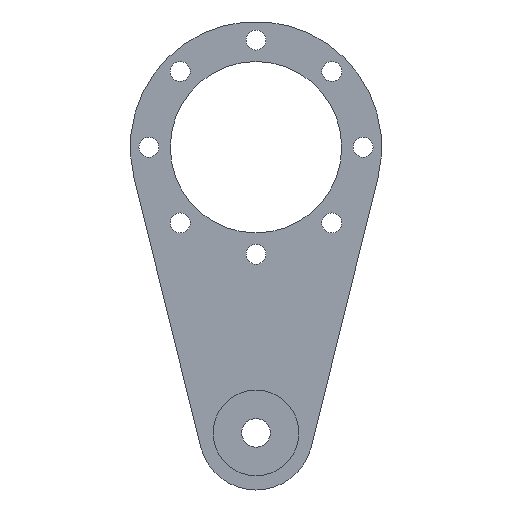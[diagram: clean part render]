
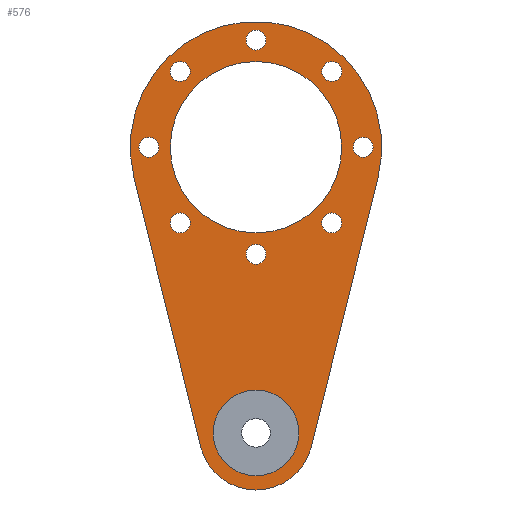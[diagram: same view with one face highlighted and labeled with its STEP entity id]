
A CAD part, left-side view. The second image highlights one B-rep face of the part: STEP entity #576.
In plain terms, the highlighted planar face has unit normal (-1, 0, 0).
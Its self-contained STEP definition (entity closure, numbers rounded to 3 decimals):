
#1=CARTESIAN_POINT('',(-2.,0.,0.));
#2=DIRECTION('',(-1.,0.,0.));
#3=DIRECTION('',(0.,0.,-1.));
#4=AXIS2_PLACEMENT_3D('',#1,#2,#3);
#6=CARTESIAN_POINT('',(-2.,0.,0.));
#7=DIRECTION('',(-1.,0.,0.));
#8=DIRECTION('',(0.,0.,1.));
#9=AXIS2_PLACEMENT_3D('',#6,#7,#8);
#11=CARTESIAN_POINT('',(-2.,37.5,0.));
#12=DIRECTION('',(-1.,0.,0.));
#13=DIRECTION('',(0.,0.,-1.));
#14=AXIS2_PLACEMENT_3D('',#11,#12,#13);
#16=CARTESIAN_POINT('',(-2.,37.5,0.));
#17=DIRECTION('',(-1.,0.,0.));
#18=DIRECTION('',(0.,0.,1.));
#19=AXIS2_PLACEMENT_3D('',#16,#17,#18);
#21=CARTESIAN_POINT('',(-2.,26.517,-26.517));
#22=DIRECTION('',(-1.,0.,0.));
#23=DIRECTION('',(0.,0.,-1.));
#24=AXIS2_PLACEMENT_3D('',#21,#22,#23);
#26=CARTESIAN_POINT('',(-2.,26.517,-26.517));
#27=DIRECTION('',(-1.,0.,0.));
#28=DIRECTION('',(0.,0.,1.));
#29=AXIS2_PLACEMENT_3D('',#26,#27,#28);
#31=CARTESIAN_POINT('',(-2.,0.,-37.5));
#32=DIRECTION('',(-1.,0.,0.));
#33=DIRECTION('',(0.,0.,-1.));
#34=AXIS2_PLACEMENT_3D('',#31,#32,#33);
#36=CARTESIAN_POINT('',(-2.,0.,-37.5));
#37=DIRECTION('',(-1.,0.,0.));
#38=DIRECTION('',(0.,0.,1.));
#39=AXIS2_PLACEMENT_3D('',#36,#37,#38);
#41=CARTESIAN_POINT('',(-2.,-37.5,0.));
#42=DIRECTION('',(-1.,0.,0.));
#43=DIRECTION('',(0.,0.,-1.));
#44=AXIS2_PLACEMENT_3D('',#41,#42,#43);
#46=CARTESIAN_POINT('',(-2.,-37.5,0.));
#47=DIRECTION('',(-1.,0.,0.));
#48=DIRECTION('',(0.,0.,1.));
#49=AXIS2_PLACEMENT_3D('',#46,#47,#48);
#51=CARTESIAN_POINT('',(-2.,0.,37.5));
#52=DIRECTION('',(-1.,0.,0.));
#53=DIRECTION('',(0.,0.,-1.));
#54=AXIS2_PLACEMENT_3D('',#51,#52,#53);
#56=CARTESIAN_POINT('',(-2.,0.,37.5));
#57=DIRECTION('',(-1.,0.,0.));
#58=DIRECTION('',(0.,0.,1.));
#59=AXIS2_PLACEMENT_3D('',#56,#57,#58);
#61=CARTESIAN_POINT('',(-2.,26.517,26.517));
#62=DIRECTION('',(-1.,0.,0.));
#63=DIRECTION('',(0.,0.,-1.));
#64=AXIS2_PLACEMENT_3D('',#61,#62,#63);
#66=CARTESIAN_POINT('',(-2.,26.517,26.517));
#67=DIRECTION('',(-1.,0.,0.));
#68=DIRECTION('',(0.,0.,1.));
#69=AXIS2_PLACEMENT_3D('',#66,#67,#68);
#71=CARTESIAN_POINT('',(-2.,-26.517,26.517));
#72=DIRECTION('',(-1.,0.,0.));
#73=DIRECTION('',(0.,0.,-1.));
#74=AXIS2_PLACEMENT_3D('',#71,#72,#73);
#76=CARTESIAN_POINT('',(-2.,-26.517,26.517));
#77=DIRECTION('',(-1.,0.,0.));
#78=DIRECTION('',(0.,0.,1.));
#79=AXIS2_PLACEMENT_3D('',#76,#77,#78);
#81=CARTESIAN_POINT('',(-2.,-26.517,-26.517));
#82=DIRECTION('',(-1.,0.,0.));
#83=DIRECTION('',(0.,0.,-1.));
#84=AXIS2_PLACEMENT_3D('',#81,#82,#83);
#86=CARTESIAN_POINT('',(-2.,-26.517,-26.517));
#87=DIRECTION('',(-1.,0.,0.));
#88=DIRECTION('',(0.,0.,1.));
#89=AXIS2_PLACEMENT_3D('',#86,#87,#88);
#91=DIRECTION('',(0.,0.24,0.971));
#92=VECTOR('',#91,97.077);
#93=CARTESIAN_POINT('',(-2.,19.415,-104.8));
#94=LINE('',#93,#92);
#95=CARTESIAN_POINT('',(-2.,0.,0.));
#96=DIRECTION('',(1.,0.,0.));
#97=DIRECTION('',(0.,0.971,-0.24));
#98=AXIS2_PLACEMENT_3D('',#95,#96,#97);
#100=DIRECTION('',(0.,0.24,-0.971));
#101=VECTOR('',#100,97.077);
#102=CARTESIAN_POINT('',(-2.,-42.714,-10.56));
#103=LINE('',#102,#101);
#104=CARTESIAN_POINT('',(-2.,0.,-100.));
#105=DIRECTION('',(1.,0.,0.));
#106=DIRECTION('',(0.,-0.971,-0.24));
#107=AXIS2_PLACEMENT_3D('',#104,#105,#106);
#109=CARTESIAN_POINT('',(-2.,0.,-100.));
#110=DIRECTION('',(-1.,0.,0.));
#111=DIRECTION('',(0.,0.,1.));
#112=AXIS2_PLACEMENT_3D('',#109,#110,#111);
#114=CARTESIAN_POINT('',(-2.,0.,-100.));
#115=DIRECTION('',(-1.,0.,0.));
#116=DIRECTION('',(0.,0.,-1.));
#117=AXIS2_PLACEMENT_3D('',#114,#115,#116);
#389=CARTESIAN_POINT('',(-2.,0.,-30.));
#390=CARTESIAN_POINT('',(-2.,0.,30.));
#391=VERTEX_POINT('',#389);
#392=VERTEX_POINT('',#390);
#393=CARTESIAN_POINT('',(-2.,37.5,-3.5));
#394=CARTESIAN_POINT('',(-2.,37.5,3.5));
#395=VERTEX_POINT('',#393);
#396=VERTEX_POINT('',#394);
#397=CARTESIAN_POINT('',(-2.,26.517,-30.017));
#398=CARTESIAN_POINT('',(-2.,26.517,-23.017));
#399=VERTEX_POINT('',#397);
#400=VERTEX_POINT('',#398);
#401=CARTESIAN_POINT('',(-2.,0.,-41.));
#402=CARTESIAN_POINT('',(-2.,0.,-34.));
#403=VERTEX_POINT('',#401);
#404=VERTEX_POINT('',#402);
#405=CARTESIAN_POINT('',(-2.,-37.5,-3.5));
#406=CARTESIAN_POINT('',(-2.,-37.5,3.5));
#407=VERTEX_POINT('',#405);
#408=VERTEX_POINT('',#406);
#409=CARTESIAN_POINT('',(-2.,0.,34.));
#410=CARTESIAN_POINT('',(-2.,0.,41.));
#411=VERTEX_POINT('',#409);
#412=VERTEX_POINT('',#410);
#413=CARTESIAN_POINT('',(-2.,26.517,23.017));
#414=CARTESIAN_POINT('',(-2.,26.517,30.017));
#415=VERTEX_POINT('',#413);
#416=VERTEX_POINT('',#414);
#417=CARTESIAN_POINT('',(-2.,-26.517,23.017));
#418=CARTESIAN_POINT('',(-2.,-26.517,30.017));
#419=VERTEX_POINT('',#417);
#420=VERTEX_POINT('',#418);
#421=CARTESIAN_POINT('',(-2.,-26.517,-30.017));
#422=CARTESIAN_POINT('',(-2.,-26.517,-23.017));
#423=VERTEX_POINT('',#421);
#424=VERTEX_POINT('',#422);
#425=CARTESIAN_POINT('',(-2.,19.415,-104.8));
#426=CARTESIAN_POINT('',(-2.,42.714,-10.56));
#427=VERTEX_POINT('',#425);
#428=VERTEX_POINT('',#426);
#429=CARTESIAN_POINT('',(-2.,-42.714,-10.56));
#430=VERTEX_POINT('',#429);
#431=CARTESIAN_POINT('',(-2.,-19.415,-104.8));
#432=VERTEX_POINT('',#431);
#497=CARTESIAN_POINT('',(-2.,0.,-85.));
#498=CARTESIAN_POINT('',(-2.,0.,-115.));
#499=VERTEX_POINT('',#497);
#500=VERTEX_POINT('',#498);
#501=CARTESIAN_POINT('',(-2.,0.,0.));
#502=DIRECTION('',(1.,0.,0.));
#503=DIRECTION('',(0.,0.,-1.));
#504=AXIS2_PLACEMENT_3D('',#501,#502,#503);
#505=PLANE('',#504);
#507=ORIENTED_EDGE('',*,*,#506,.T.);
#509=ORIENTED_EDGE('',*,*,#508,.T.);
#511=ORIENTED_EDGE('',*,*,#510,.T.);
#513=ORIENTED_EDGE('',*,*,#512,.T.);
#514=EDGE_LOOP('',(#507,#509,#511,#513));
#515=FACE_OUTER_BOUND('',#514,.F.);
#517=ORIENTED_EDGE('',*,*,#516,.T.);
#519=ORIENTED_EDGE('',*,*,#518,.T.);
#520=EDGE_LOOP('',(#517,#519));
#521=FACE_BOUND('',#520,.F.);
#523=ORIENTED_EDGE('',*,*,#522,.T.);
#525=ORIENTED_EDGE('',*,*,#524,.T.);
#526=EDGE_LOOP('',(#523,#525));
#527=FACE_BOUND('',#526,.F.);
#529=ORIENTED_EDGE('',*,*,#528,.T.);
#531=ORIENTED_EDGE('',*,*,#530,.T.);
#532=EDGE_LOOP('',(#529,#531));
#533=FACE_BOUND('',#532,.F.);
#535=ORIENTED_EDGE('',*,*,#534,.T.);
#537=ORIENTED_EDGE('',*,*,#536,.T.);
#538=EDGE_LOOP('',(#535,#537));
#539=FACE_BOUND('',#538,.F.);
#541=ORIENTED_EDGE('',*,*,#540,.T.);
#543=ORIENTED_EDGE('',*,*,#542,.T.);
#544=EDGE_LOOP('',(#541,#543));
#545=FACE_BOUND('',#544,.F.);
#547=ORIENTED_EDGE('',*,*,#546,.T.);
#549=ORIENTED_EDGE('',*,*,#548,.T.);
#550=EDGE_LOOP('',(#547,#549));
#551=FACE_BOUND('',#550,.F.);
#553=ORIENTED_EDGE('',*,*,#552,.T.);
#555=ORIENTED_EDGE('',*,*,#554,.T.);
#556=EDGE_LOOP('',(#553,#555));
#557=FACE_BOUND('',#556,.F.);
#559=ORIENTED_EDGE('',*,*,#558,.T.);
#561=ORIENTED_EDGE('',*,*,#560,.T.);
#562=EDGE_LOOP('',(#559,#561));
#563=FACE_BOUND('',#562,.F.);
#565=ORIENTED_EDGE('',*,*,#564,.T.);
#567=ORIENTED_EDGE('',*,*,#566,.T.);
#568=EDGE_LOOP('',(#565,#567));
#569=FACE_BOUND('',#568,.F.);
#571=ORIENTED_EDGE('',*,*,#570,.T.);
#573=ORIENTED_EDGE('',*,*,#572,.T.);
#574=EDGE_LOOP('',(#571,#573));
#575=FACE_BOUND('',#574,.F.);
#576=ADVANCED_FACE('',(#515,#521,#527,#533,#539,#545,#551,#557,#563,#569,#575),
#505,.F.);
#5=CIRCLE('',#4,30.);
#10=CIRCLE('',#9,30.);
#15=CIRCLE('',#14,3.5);
#20=CIRCLE('',#19,3.5);
#25=CIRCLE('',#24,3.5);
#30=CIRCLE('',#29,3.5);
#35=CIRCLE('',#34,3.5);
#40=CIRCLE('',#39,3.5);
#45=CIRCLE('',#44,3.5);
#50=CIRCLE('',#49,3.5);
#55=CIRCLE('',#54,3.5);
#60=CIRCLE('',#59,3.5);
#65=CIRCLE('',#64,3.5);
#70=CIRCLE('',#69,3.5);
#75=CIRCLE('',#74,3.5);
#80=CIRCLE('',#79,3.5);
#85=CIRCLE('',#84,3.5);
#90=CIRCLE('',#89,3.5);
#99=CIRCLE('',#98,44.);
#108=CIRCLE('',#107,20.);
#113=CIRCLE('',#112,15.);
#118=CIRCLE('',#117,15.);
#506=EDGE_CURVE('',#427,#428,#94,.T.);
#508=EDGE_CURVE('',#428,#430,#99,.T.);
#510=EDGE_CURVE('',#430,#432,#103,.T.);
#512=EDGE_CURVE('',#432,#427,#108,.T.);
#516=EDGE_CURVE('',#391,#392,#5,.T.);
#518=EDGE_CURVE('',#392,#391,#10,.T.);
#522=EDGE_CURVE('',#395,#396,#15,.T.);
#524=EDGE_CURVE('',#396,#395,#20,.T.);
#528=EDGE_CURVE('',#399,#400,#25,.T.);
#530=EDGE_CURVE('',#400,#399,#30,.T.);
#534=EDGE_CURVE('',#403,#404,#35,.T.);
#536=EDGE_CURVE('',#404,#403,#40,.T.);
#540=EDGE_CURVE('',#407,#408,#45,.T.);
#542=EDGE_CURVE('',#408,#407,#50,.T.);
#546=EDGE_CURVE('',#411,#412,#55,.T.);
#548=EDGE_CURVE('',#412,#411,#60,.T.);
#552=EDGE_CURVE('',#415,#416,#65,.T.);
#554=EDGE_CURVE('',#416,#415,#70,.T.);
#558=EDGE_CURVE('',#419,#420,#75,.T.);
#560=EDGE_CURVE('',#420,#419,#80,.T.);
#564=EDGE_CURVE('',#423,#424,#85,.T.);
#566=EDGE_CURVE('',#424,#423,#90,.T.);
#570=EDGE_CURVE('',#499,#500,#113,.T.);
#572=EDGE_CURVE('',#500,#499,#118,.T.);
